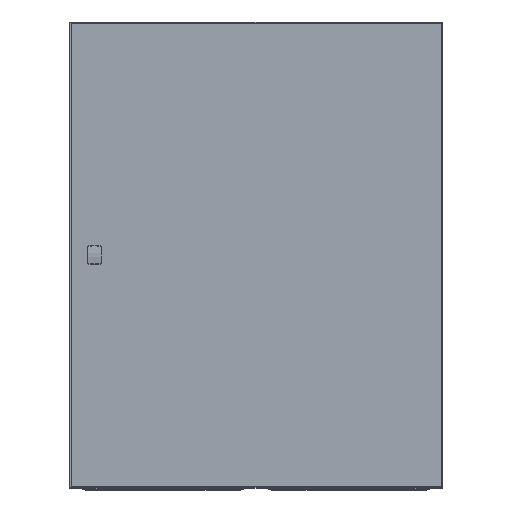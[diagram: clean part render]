
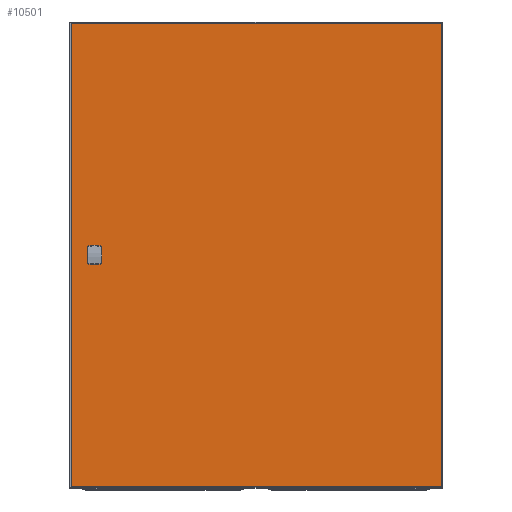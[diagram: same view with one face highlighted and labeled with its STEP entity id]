
A CAD part, top view. The second image highlights one B-rep face of the part: STEP entity #10501.
In plain terms, the highlighted planar face has unit normal (0, 0, 1).
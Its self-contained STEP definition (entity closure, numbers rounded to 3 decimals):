
#516=CIRCLE('',#11909,11.3);
#517=CIRCLE('',#11910,11.3);
#518=CIRCLE('',#11911,1.25);
#519=CIRCLE('',#11912,11.3);
#520=CIRCLE('',#11913,11.3);
#521=CIRCLE('',#11914,1.25);
#1650=ORIENTED_EDGE('',*,*,#4138,.F.);
#1651=ORIENTED_EDGE('',*,*,#4139,.F.);
#1652=ORIENTED_EDGE('',*,*,#4140,.F.);
#1653=ORIENTED_EDGE('',*,*,#4141,.F.);
#1654=ORIENTED_EDGE('',*,*,#4142,.F.);
#1655=ORIENTED_EDGE('',*,*,#4143,.F.);
#1656=ORIENTED_EDGE('',*,*,#4144,.F.);
#1657=ORIENTED_EDGE('',*,*,#4145,.F.);
#1658=ORIENTED_EDGE('',*,*,#4146,.F.);
#1659=ORIENTED_EDGE('',*,*,#4147,.F.);
#1660=ORIENTED_EDGE('',*,*,#4148,.F.);
#1661=ORIENTED_EDGE('',*,*,#4149,.F.);
#1662=ORIENTED_EDGE('',*,*,#4150,.F.);
#1663=ORIENTED_EDGE('',*,*,#4151,.F.);
#1664=ORIENTED_EDGE('',*,*,#4152,.F.);
#1665=ORIENTED_EDGE('',*,*,#4153,.F.);
#1666=ORIENTED_EDGE('',*,*,#4154,.T.);
#1667=ORIENTED_EDGE('',*,*,#4155,.F.);
#1668=ORIENTED_EDGE('',*,*,#4156,.F.);
#1669=ORIENTED_EDGE('',*,*,#4136,.T.);
#4136=EDGE_CURVE('',#5458,#5457,#6421,.T.);
#4138=EDGE_CURVE('',#5459,#5460,#516,.T.);
#4139=EDGE_CURVE('',#5461,#5459,#6423,.T.);
#4140=EDGE_CURVE('',#5462,#5461,#517,.T.);
#4141=EDGE_CURVE('',#5463,#5462,#6424,.T.);
#4142=EDGE_CURVE('',#5464,#5463,#6425,.T.);
#4143=EDGE_CURVE('',#5465,#5464,#518,.T.);
#4144=EDGE_CURVE('',#5466,#5465,#6426,.T.);
#4145=EDGE_CURVE('',#5467,#5466,#6427,.T.);
#4146=EDGE_CURVE('',#5468,#5467,#519,.T.);
#4147=EDGE_CURVE('',#5469,#5468,#6428,.T.);
#4148=EDGE_CURVE('',#5470,#5469,#520,.T.);
#4149=EDGE_CURVE('',#5471,#5470,#6429,.T.);
#4150=EDGE_CURVE('',#5472,#5471,#6430,.T.);
#4151=EDGE_CURVE('',#5473,#5472,#521,.T.);
#4152=EDGE_CURVE('',#5474,#5473,#6431,.T.);
#4153=EDGE_CURVE('',#5460,#5474,#6432,.T.);
#4154=EDGE_CURVE('',#5457,#5475,#6433,.T.);
#4155=EDGE_CURVE('',#5476,#5475,#6434,.T.);
#4156=EDGE_CURVE('',#5458,#5476,#6435,.T.);
#5457=VERTEX_POINT('',#16880);
#5458=VERTEX_POINT('',#16882);
#5459=VERTEX_POINT('',#16886);
#5460=VERTEX_POINT('',#16887);
#5461=VERTEX_POINT('',#16889);
#5462=VERTEX_POINT('',#16891);
#5463=VERTEX_POINT('',#16893);
#5464=VERTEX_POINT('',#16895);
#5465=VERTEX_POINT('',#16897);
#5466=VERTEX_POINT('',#16899);
#5467=VERTEX_POINT('',#16901);
#5468=VERTEX_POINT('',#16903);
#5469=VERTEX_POINT('',#16905);
#5470=VERTEX_POINT('',#16907);
#5471=VERTEX_POINT('',#16909);
#5472=VERTEX_POINT('',#16911);
#5473=VERTEX_POINT('',#16913);
#5474=VERTEX_POINT('',#16915);
#5475=VERTEX_POINT('',#16918);
#5476=VERTEX_POINT('',#16920);
#6421=LINE('',#16881,#7418);
#6423=LINE('',#16888,#7420);
#6424=LINE('',#16892,#7421);
#6425=LINE('',#16894,#7422);
#6426=LINE('',#16898,#7423);
#6427=LINE('',#16900,#7424);
#6428=LINE('',#16904,#7425);
#6429=LINE('',#16908,#7426);
#6430=LINE('',#16910,#7427);
#6431=LINE('',#16914,#7428);
#6432=LINE('',#16916,#7429);
#6433=LINE('',#16917,#7430);
#6434=LINE('',#16919,#7431);
#6435=LINE('',#16921,#7432);
#7418=VECTOR('',#13704,1000.);
#7420=VECTOR('',#13710,1000.);
#7421=VECTOR('',#13713,1000.);
#7422=VECTOR('',#13714,1000.);
#7423=VECTOR('',#13717,1000.);
#7424=VECTOR('',#13718,1000.);
#7425=VECTOR('',#13721,1000.);
#7426=VECTOR('',#13724,1000.);
#7427=VECTOR('',#13725,1000.);
#7428=VECTOR('',#13728,1000.);
#7429=VECTOR('',#13729,1000.);
#7430=VECTOR('',#13730,1000.);
#7431=VECTOR('',#13731,1000.);
#7432=VECTOR('',#13732,1000.);
#8397=EDGE_LOOP('',(#1650,#1651,#1652,#1653,#1654,#1655,#1656,#1657,#1658,
#1659,#1660,#1661,#1662,#1663,#1664,#1665));
#8398=EDGE_LOOP('',(#1666,#1667,#1668,#1669));
#9290=FACE_BOUND('',#8397,.T.);
#9291=FACE_BOUND('',#8398,.T.);
#9982=PLANE('',#11908);
#10501=ADVANCED_FACE('',(#9290,#9291),#9982,.F.);
#11908=AXIS2_PLACEMENT_3D('',#16884,#13706,#13707);
#11909=AXIS2_PLACEMENT_3D('',#16885,#13708,#13709);
#11910=AXIS2_PLACEMENT_3D('',#16890,#13711,#13712);
#11911=AXIS2_PLACEMENT_3D('',#16896,#13715,#13716);
#11912=AXIS2_PLACEMENT_3D('',#16902,#13719,#13720);
#11913=AXIS2_PLACEMENT_3D('',#16906,#13722,#13723);
#11914=AXIS2_PLACEMENT_3D('',#16912,#13726,#13727);
#13704=DIRECTION('',(0.,-1.,0.));
#13706=DIRECTION('',(0.,0.,-1.));
#13707=DIRECTION('',(-1.,0.,0.));
#13708=DIRECTION('',(0.,0.,1.));
#13709=DIRECTION('',(1.,0.,0.));
#13710=DIRECTION('',(0.,-1.,0.));
#13711=DIRECTION('',(0.,0.,1.));
#13712=DIRECTION('',(1.,0.,0.));
#13713=DIRECTION('',(-1.,0.,0.));
#13714=DIRECTION('',(0.,-1.,0.));
#13715=DIRECTION('',(0.,0.,1.));
#13716=DIRECTION('',(1.,0.,0.));
#13717=DIRECTION('',(0.,1.,0.));
#13718=DIRECTION('',(-1.,0.,0.));
#13719=DIRECTION('',(0.,0.,1.));
#13720=DIRECTION('',(1.,0.,0.));
#13721=DIRECTION('',(0.,1.,0.));
#13722=DIRECTION('',(0.,0.,1.));
#13723=DIRECTION('',(1.,0.,0.));
#13724=DIRECTION('',(1.,0.,0.));
#13725=DIRECTION('',(0.,1.,0.));
#13726=DIRECTION('',(0.,0.,1.));
#13727=DIRECTION('',(1.,0.,0.));
#13728=DIRECTION('',(0.,-1.,0.));
#13729=DIRECTION('',(1.,0.,0.));
#13730=DIRECTION('',(1.,0.,0.));
#13731=DIRECTION('',(0.,-1.,0.));
#13732=DIRECTION('',(1.,0.,0.));
#16880=CARTESIAN_POINT('',(-397.5,-497.5,0.));
#16881=CARTESIAN_POINT('',(-397.5,497.5,0.));
#16882=CARTESIAN_POINT('',(-397.5,497.5,0.));
#16884=CARTESIAN_POINT('',(-397.5,497.5,0.));
#16885=CARTESIAN_POINT('',(-347.5,0.,0.));
#16886=CARTESIAN_POINT('',(-357.65,-4.967,0.));
#16887=CARTESIAN_POINT('',(-352.467,-10.15,0.));
#16888=CARTESIAN_POINT('',(-357.65,4.967,0.));
#16889=CARTESIAN_POINT('',(-357.65,4.967,0.));
#16890=CARTESIAN_POINT('',(-347.5,0.,0.));
#16891=CARTESIAN_POINT('',(-352.467,10.15,0.));
#16892=CARTESIAN_POINT('',(-348.75,10.15,0.));
#16893=CARTESIAN_POINT('',(-348.75,10.15,0.));
#16894=CARTESIAN_POINT('',(-348.75,10.75,0.));
#16895=CARTESIAN_POINT('',(-348.75,10.75,0.));
#16896=CARTESIAN_POINT('',(-347.5,10.75,0.));
#16897=CARTESIAN_POINT('',(-346.25,10.75,0.));
#16898=CARTESIAN_POINT('',(-346.25,10.15,0.));
#16899=CARTESIAN_POINT('',(-346.25,10.15,0.));
#16900=CARTESIAN_POINT('',(-342.533,10.15,0.));
#16901=CARTESIAN_POINT('',(-342.533,10.15,0.));
#16902=CARTESIAN_POINT('',(-347.5,0.,0.));
#16903=CARTESIAN_POINT('',(-337.35,4.967,0.));
#16904=CARTESIAN_POINT('',(-337.35,-4.967,0.));
#16905=CARTESIAN_POINT('',(-337.35,-4.967,0.));
#16906=CARTESIAN_POINT('',(-347.5,0.,0.));
#16907=CARTESIAN_POINT('',(-342.533,-10.15,0.));
#16908=CARTESIAN_POINT('',(-346.25,-10.15,0.));
#16909=CARTESIAN_POINT('',(-346.25,-10.15,0.));
#16910=CARTESIAN_POINT('',(-346.25,-10.75,0.));
#16911=CARTESIAN_POINT('',(-346.25,-10.75,0.));
#16912=CARTESIAN_POINT('',(-347.5,-10.75,0.));
#16913=CARTESIAN_POINT('',(-348.75,-10.75,0.));
#16914=CARTESIAN_POINT('',(-348.75,-10.15,0.));
#16915=CARTESIAN_POINT('',(-348.75,-10.15,0.));
#16916=CARTESIAN_POINT('',(-352.467,-10.15,0.));
#16917=CARTESIAN_POINT('',(-397.5,-497.5,0.));
#16918=CARTESIAN_POINT('',(397.5,-497.5,0.));
#16919=CARTESIAN_POINT('',(397.5,497.5,0.));
#16920=CARTESIAN_POINT('',(397.5,497.5,0.));
#16921=CARTESIAN_POINT('',(-397.5,497.5,0.));
